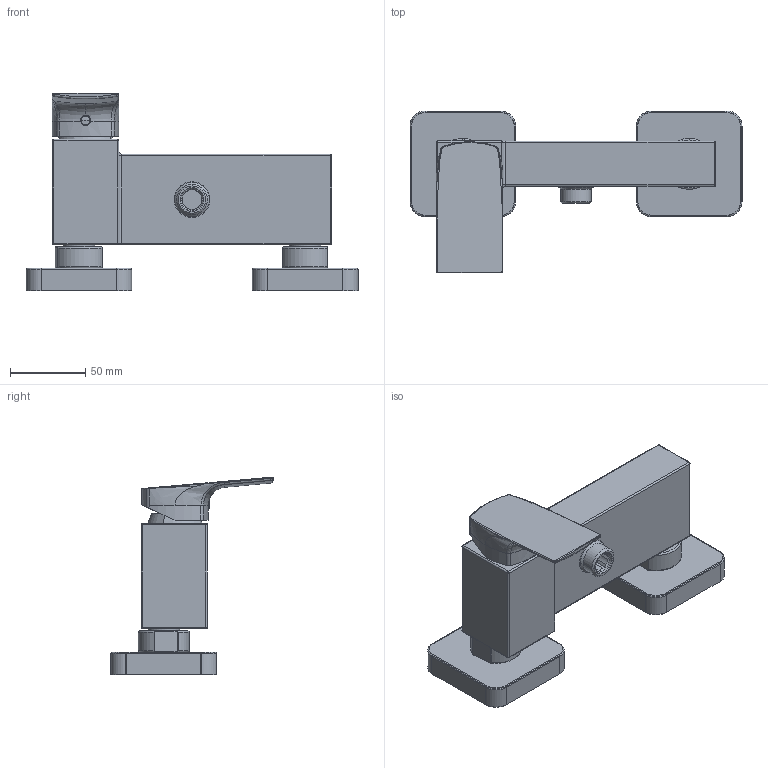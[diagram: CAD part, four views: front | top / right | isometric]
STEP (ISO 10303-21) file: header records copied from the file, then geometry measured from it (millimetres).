
FILE_DESCRIPTION((''),'2;1');
FILE_NAME('3D_SW0002','2024-10-08T08:48:12',('volponeff'),(''),'CREO PARAMETRIC BY PTC INC, 2022014','CREO PARAMETRIC BY PTC INC, 2022014','');
FILE_SCHEMA(('CONFIG_CONTROL_DESIGN'));
Products named in the file (1): 3D_SW0002
Bounding box: 220 x 107.5 x 131.04 mm (x, y, z)
Volume: 233546.3 mm3; surface area: 155159.2 mm2
Topology: 2 solids, 2 shells, 1255 faces, 2973 edges, 1757 vertices
Faces by surface type: cylinder 510, plane 326, torus 130, bspline 109, cone 105, sphere 75
Entity records: 52301 total; most frequent: CARTESIAN_POINT 23684, DIRECTION 6179, ORIENTED_EDGE 5922, EDGE_CURVE 2961, AXIS2_PLACEMENT_3D 2483, VERTEX_POINT 1755, CIRCLE 1337, EDGE_LOOP 1328
